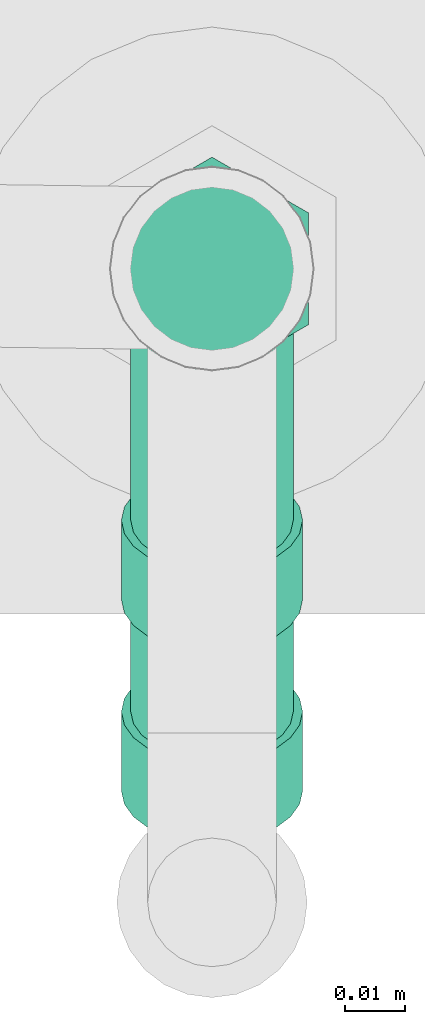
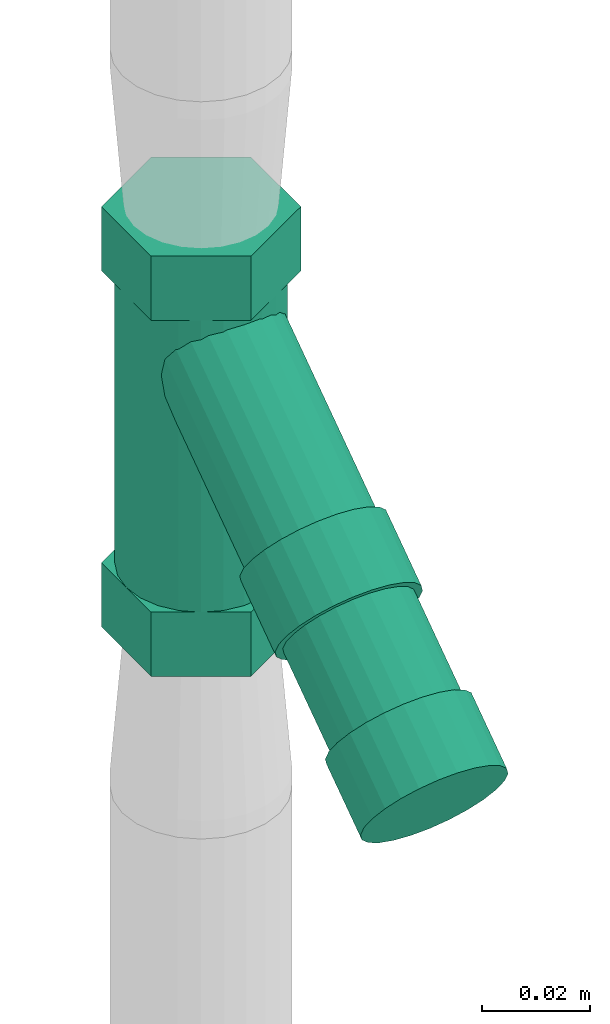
# One storey, part 84 of 374: 1 flow treatment device.
"""IFC2X3 building model written with IfcOpenShell, lengths in metres."""

from ifc_helpers import new_model, si_unit, direction, origin, place, context, subcontext, project, spatial, open_shell, surface_model, source, transform, mapped, element, save


model = new_model("IFC2X3")

# Units and contexts
model_context = context("Model", 3, precision=1e-05, world=origin(), true_north=direction((-0.4480736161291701, 0.8939966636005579)))
body_context = subcontext(model_context, "Body", "Model", "MODEL_VIEW")
ifc_project = project(units=[si_unit("LENGTHUNIT", "METRE"), si_unit("AREAUNIT", "SQUARE_METRE"), si_unit("VOLUMEUNIT", "CUBIC_METRE"), si_unit("PLANEANGLEUNIT", "RADIAN"), si_unit("THERMODYNAMICTEMPERATUREUNIT", "KELVIN"), si_unit("MASSUNIT", "GRAM", prefix="KILO"), si_unit("TIMEUNIT", "SECOND")], contexts=[model_context])

# Site, building, storey
site_placement = place(None, origin())
site = spatial("IfcSite", under=ifc_project, at=site_placement, Name="Site 1", CompositionType="ELEMENT")
building_placement = place(site_placement, origin())
building = spatial("IfcBuilding", under=site, at=building_placement, Name="Undefined", CompositionType="ELEMENT")
storey_placement = place(building_placement, origin())
storey = spatial("IfcBuildingStorey", under=building, at=storey_placement, Name="Rez de chauss\x8ee", CompositionType="ELEMENT", Elevation=0.0)

# Flow treatment device
shared_shape = source(origin(), body_context, "Body", "SurfaceModel", [
    surface_model("IfcFaceBasedSurfaceModel", [(0.0, 0.0035111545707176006, 0.0), (0.0, 0.0, 0.0), (0.02585578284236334, 7.105427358e-15, 0.0), (0.024975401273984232, 0.003511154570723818, -3.552713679e-15), (0.0, -0.003391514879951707, -0.0009087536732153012), (0.028436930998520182, -0.003391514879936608, -0.0009087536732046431), (0.0, -0.006432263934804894, -0.0026643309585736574), (0.03254294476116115, -0.006432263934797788, -0.0026643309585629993), (0.0, -0.00891502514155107, -0.005147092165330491), (0.03789400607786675, -0.008915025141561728, -0.005147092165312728), (0.0, -0.010670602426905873, -0.008187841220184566), (0.04412544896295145, -0.010670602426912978, -0.008187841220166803), (0.0, -0.011579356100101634, -0.01157935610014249), (0.050812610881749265, -0.011579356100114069, -0.011579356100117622), (0.0, -0.011579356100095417, -0.015090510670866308), (0.04900045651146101, -0.011579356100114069, -0.015090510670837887), (0.0, -0.010670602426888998, -0.018482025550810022), (0.04731179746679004, -0.010670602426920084, -0.018482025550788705), (0.0, -0.008915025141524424, -0.021522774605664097), (0.04586171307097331, -0.008915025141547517, -0.021522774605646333), (0.0, -0.006432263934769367, -0.02400553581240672), (0.04474902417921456, -0.006432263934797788, -0.024005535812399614), (0.0, -0.0033915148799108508, -0.025761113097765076), (0.04404955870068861, -0.003391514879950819, -0.025761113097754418), (0.0, 4.2632564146e-14, -0.026669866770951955), (0.04381098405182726, 7.105427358e-15, -0.02666986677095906), (0.0, 0.0035111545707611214, -0.026669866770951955), (0.04404955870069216, 0.0035111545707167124, -0.026669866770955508), (0.0, 0.006902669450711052, -0.02576111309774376), (0.04474902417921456, 0.006902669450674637, -0.025761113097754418), (0.0, 0.00994341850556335, -0.024005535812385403), (0.04586171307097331, 0.009943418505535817, -0.02400553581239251), (0.0, 0.012426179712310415, -0.02152277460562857), (0.04731179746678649, 0.012426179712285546, -0.021522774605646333), (0.0, 0.014181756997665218, -0.018482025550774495), (0.04900045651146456, 0.014181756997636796, -0.018482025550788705), (0.0, 0.015090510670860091, -0.01509051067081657), (0.050812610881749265, 0.015090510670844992, -0.015090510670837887), (0.0, 0.015090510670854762, -0.011579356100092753), (0.044125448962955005, 0.015090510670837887, -0.011579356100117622), (0.0, 0.014181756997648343, -0.00818784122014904), (0.037894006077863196, 0.014181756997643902, -0.008187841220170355), (0.0, 0.012426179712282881, -0.005147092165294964), (0.03254294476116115, 0.012426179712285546, -0.005147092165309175), (0.0, 0.009943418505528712, -0.002664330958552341), (0.028436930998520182, 0.009943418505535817, -0.0026643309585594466), (0.0, 0.006902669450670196, -0.0009087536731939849), (0.025855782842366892, 0.006902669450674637, -0.0009087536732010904), (0.07112295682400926, -0.015791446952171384, -0.02403705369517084), (0.05598895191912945, -0.01717462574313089, -0.034543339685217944), (0.047672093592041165, -0.015624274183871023, -0.022767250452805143), (0.06280609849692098, -0.014241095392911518, -0.01226096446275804), (0.07868995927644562, 0.000763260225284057, -0.020872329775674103), (0.07037310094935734, 0.002313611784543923, -0.00909624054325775), (0.07112295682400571, 0.0159347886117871, -0.028213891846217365), (0.06280609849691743, 0.017485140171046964, -0.01643780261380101), (0.055988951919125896, 0.014551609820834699, -0.03872017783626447), (0.04767209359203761, 0.016101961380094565, -0.026944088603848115), (0.048421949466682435, -0.002003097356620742, -0.04188490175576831), (0.04010509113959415, -0.00045274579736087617, -0.030108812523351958), (0.05523909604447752, 0.016793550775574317, -0.021690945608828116), (0.05184690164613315, 0.01594299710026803, -0.023974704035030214), (0.013990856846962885, 0.0229997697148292, 0.029626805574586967), (0.017383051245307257, 0.023850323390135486, 0.031910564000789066), (0.048685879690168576, 0.014069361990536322, -0.025960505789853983), (0.010829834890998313, 0.02112613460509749, 0.0276410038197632), (0.04597144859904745, 0.011300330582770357, -0.02751302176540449), (0.008115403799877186, 0.018357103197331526, 0.026088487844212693), (0.04388859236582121, 0.007824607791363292, -0.028526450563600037), (0.006032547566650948, 0.01488138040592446, 0.025075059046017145), (0.042579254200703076, 0.0038790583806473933, -0.028931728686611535), (0.004723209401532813, 0.010935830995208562, 0.024669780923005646), (0.04213266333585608, -0.0002674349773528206, -0.028701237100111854), (0.004276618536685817, 0.006789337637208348, 0.024900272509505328), (0.04257925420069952, -0.004332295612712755, -0.02785068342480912), (0.00472320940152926, 0.0027244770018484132, 0.025750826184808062), (0.04388859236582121, -0.008038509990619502, -0.026438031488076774), (0.006032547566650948, -0.0009817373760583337, 0.027163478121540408), (0.04597144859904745, -0.011133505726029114, -0.024559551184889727), (0.008115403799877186, -0.004076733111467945, 0.029041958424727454), (0.048685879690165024, -0.01340636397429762, -0.022343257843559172), (0.01082983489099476, -0.006349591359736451, 0.03125825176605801), (0.05184690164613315, -0.014702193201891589, -0.019940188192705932), (0.013990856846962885, -0.00764542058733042, 0.03366132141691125), (0.05523909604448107, -0.01493268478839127, -0.01751410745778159), (0.01738305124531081, -0.007875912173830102, 0.03608740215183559), (0.058631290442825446, -0.014082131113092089, -0.015230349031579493), (0.020775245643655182, -0.00702535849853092, 0.03837116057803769), (0.06179231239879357, -0.01220849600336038, -0.013244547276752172), (0.023936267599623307, -0.005151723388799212, 0.04035696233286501), (0.0645067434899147, -0.00943946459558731, -0.011692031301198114), (0.026650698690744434, -0.0023826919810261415, 0.04190947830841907), (0.06658959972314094, -0.005963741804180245, -0.010678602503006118), (0.028733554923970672, 0.0010930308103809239, 0.04292290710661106), (0.06789893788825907, -0.0020181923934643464, -0.010273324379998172), (0.030042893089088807, 0.005038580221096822, 0.04332818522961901), (0.06834552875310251, 0.0021283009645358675, -0.010503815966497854), (0.03048948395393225, 0.009185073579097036, 0.04309769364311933), (0.06789893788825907, 0.006193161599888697, -0.011354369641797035), (0.030042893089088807, 0.013249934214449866, 0.042247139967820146), (0.06658959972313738, 0.00989937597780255, -0.01276702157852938), (0.02873355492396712, 0.016956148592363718, 0.0408344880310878), (0.0645067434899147, 0.012994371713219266, -0.014645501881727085), (0.026650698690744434, 0.020051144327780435, 0.038956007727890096), (0.06179231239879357, 0.015267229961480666, -0.016861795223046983), (0.023936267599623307, 0.022324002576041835, 0.0367397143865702), (0.058631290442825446, 0.01656305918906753, -0.019264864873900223), (0.020775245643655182, 0.0236198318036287, 0.03433664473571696), (0.024950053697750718, -0.007184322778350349, 0.04134054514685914), (0.009816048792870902, -0.008567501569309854, 0.03083425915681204), (0.0014991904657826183, -0.007017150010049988, 0.04261034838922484), (0.016633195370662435, -0.005633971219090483, 0.05311663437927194), (0.032517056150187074, 0.009370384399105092, 0.04450526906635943), (0.02420019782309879, 0.010920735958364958, 0.05628135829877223), (0.024950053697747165, 0.024541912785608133, 0.03716370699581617), (0.016633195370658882, 0.026092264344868, 0.04893979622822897), (0.009816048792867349, 0.023158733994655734, 0.026657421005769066), (0.0014991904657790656, 0.0247090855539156, 0.03843351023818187), (0.002249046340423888, 0.0066040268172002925, 0.023492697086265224), (-0.006067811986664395, 0.008154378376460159, 0.035268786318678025), (0.0, 0.016627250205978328, -0.015292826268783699), (3.552713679e-15, 0.015613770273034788, -0.01907518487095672), (-0.015999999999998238, 0.015613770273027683, -0.01907518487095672), (-0.01600000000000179, 0.016627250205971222, -0.015292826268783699), (3.552713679e-15, 0.01365587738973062, -0.022466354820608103), (-0.015999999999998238, 0.013655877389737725, -0.022466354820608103), (0.0, 0.010886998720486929, -0.02523523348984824), (-0.01600000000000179, 0.01088699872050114, -0.02523523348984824), (0.0, 0.007495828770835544, -0.027193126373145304), (-0.015999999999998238, 0.00749582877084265, -0.027193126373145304), (3.552713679e-15, 0.003713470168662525, -0.028206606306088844), (-0.015999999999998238, 0.0037134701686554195, -0.028206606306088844), (0.0, -0.00020231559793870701, -0.028206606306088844), (-0.015999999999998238, -0.00020231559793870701, -0.02820660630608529), (3.552713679e-15, -0.003984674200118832, -0.027193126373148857), (-0.016000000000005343, -0.003984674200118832, -0.027193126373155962), (0.0, -0.0073758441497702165, -0.02523523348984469), (-0.01600000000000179, -0.007375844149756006, -0.02523523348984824), (0.0, -0.010144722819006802, -0.022466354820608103), (-0.01600000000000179, -0.010144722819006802, -0.022466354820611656), (0.0, -0.012102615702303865, -0.019075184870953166), (-0.015999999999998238, -0.01210261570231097, -0.019075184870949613), (-3.552713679e-15, -0.013116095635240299, -0.015292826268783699), (-0.01600000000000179, -0.013116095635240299, -0.015292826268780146), (3.552713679e-15, -0.013116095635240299, -0.011377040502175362), (-0.015999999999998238, -0.013116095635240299, -0.011377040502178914), (-3.552713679e-15, -0.01210261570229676, -0.007594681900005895), (-0.01600000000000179, -0.012102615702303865, -0.007594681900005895), (3.552713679e-15, -0.010144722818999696, -0.004203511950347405), (-0.01600000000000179, -0.010144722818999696, -0.004203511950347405), (3.552713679e-15, -0.007375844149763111, -0.0014346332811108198), (-0.01600000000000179, -0.007375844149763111, -0.0014346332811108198), (-3.552713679e-15, -0.003984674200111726, 0.0005232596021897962), (-0.01600000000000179, -0.003984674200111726, 0.0005232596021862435), (-3.552713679e-15, -0.0002023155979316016, 0.0015367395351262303), (-0.016000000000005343, -0.0002023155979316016, 0.0015367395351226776), (0.0, 0.0037134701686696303, 0.001536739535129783), (-0.01600000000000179, 0.003713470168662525, 0.001536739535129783), (-3.552713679e-15, 0.00749582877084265, 0.0005232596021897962), (-0.01600000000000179, 0.00749582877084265, 0.0005232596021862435), (0.0, 0.01088699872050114, -0.0014346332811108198), (-0.015999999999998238, 0.010886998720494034, -0.0014346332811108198), (0.0, 0.013655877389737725, -0.004203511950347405), (-0.01600000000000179, 0.013655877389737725, -0.004203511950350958), (-3.552713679e-15, 0.015613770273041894, -0.0075946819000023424), (-0.01600000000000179, 0.015613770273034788, -0.007594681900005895), (0.0, 0.016627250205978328, -0.011377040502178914), (-0.01600000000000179, 0.016627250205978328, -0.011377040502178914), (3.552713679e-15, 0.0017555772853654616, -0.01333493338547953), (-0.015999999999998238, 0.0017555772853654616, -0.01333493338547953), (-0.01600000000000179, 0.015090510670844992, -0.01509051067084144), (-0.01600000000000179, 0.014181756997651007, -0.018482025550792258), (-0.03865786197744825, 0.014181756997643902, -0.018482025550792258), (-0.03865786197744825, 0.015090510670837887, -0.01509051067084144), (-0.015999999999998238, 0.012426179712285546, -0.021522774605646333), (-0.038657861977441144, 0.012426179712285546, -0.021522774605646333), (-0.015999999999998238, 0.009943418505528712, -0.02400553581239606), (-0.038657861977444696, 0.009943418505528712, -0.02400553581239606), (-0.01600000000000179, 0.006902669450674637, -0.02576111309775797), (-0.03865786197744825, 0.006902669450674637, -0.025761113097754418), (-0.015999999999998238, 0.003511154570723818, -0.026669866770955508), (-0.038657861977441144, 0.0035111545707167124, -0.02666986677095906), (-0.01600000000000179, 0.0, -0.02666986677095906), (-0.038657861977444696, 7.105427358e-15, -0.026669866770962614), (-0.016000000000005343, -0.0033915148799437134, -0.02576111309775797), (-0.03865786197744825, -0.003391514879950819, -0.02576111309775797), (-0.01600000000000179, -0.006432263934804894, -0.02400553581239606), (-0.03865786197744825, -0.006432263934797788, -0.024005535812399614), (-0.016000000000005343, -0.008915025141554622, -0.021522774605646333), (-0.03865786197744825, -0.008915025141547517, -0.021522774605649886), (-0.015999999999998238, -0.010670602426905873, -0.018482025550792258), (-0.03865786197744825, -0.010670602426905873, -0.018482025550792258), (-0.015999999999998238, -0.011579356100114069, -0.015090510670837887), (-0.03865786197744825, -0.011579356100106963, -0.01509051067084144), (-0.015999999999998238, -0.011579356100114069, -0.011579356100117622), (-0.038657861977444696, -0.011579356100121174, -0.011579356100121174), (-0.01600000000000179, -0.010670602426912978, -0.008187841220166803), (-0.038657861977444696, -0.010670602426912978, -0.008187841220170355), (-0.01600000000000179, -0.008915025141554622, -0.0051470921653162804), (-0.0386578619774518, -0.008915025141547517, -0.0051470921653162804), (-0.01600000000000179, -0.006432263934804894, -0.0026643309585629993), (-0.038657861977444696, -0.006432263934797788, -0.0026643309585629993), (-0.015999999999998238, -0.003391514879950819, -0.0009087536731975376), (-0.038657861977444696, -0.0033915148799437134, -0.0009087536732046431), (-0.015999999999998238, 0.0, 0.0), (-0.03865786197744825, 7.105427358e-15, -3.552713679e-15), (-0.015999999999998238, 0.003511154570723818, 0.0), (-0.03865786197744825, 0.0035111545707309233, -7.105427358e-15), (-0.01600000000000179, 0.006902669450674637, -0.0009087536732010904), (-0.038657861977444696, 0.006902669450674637, -0.0009087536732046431), (-0.01600000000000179, 0.009943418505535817, -0.0026643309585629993), (-0.038657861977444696, 0.009943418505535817, -0.0026643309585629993), (-0.01600000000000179, 0.012426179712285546, -0.0051470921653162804), (-0.038657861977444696, 0.012426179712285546, -0.005147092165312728), (-0.015999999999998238, 0.014181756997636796, -0.008187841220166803), (-0.038657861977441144, 0.014181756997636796, -0.008187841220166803), (-0.01600000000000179, 0.015090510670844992, -0.011579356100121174), (-0.038657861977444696, 0.015090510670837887, -0.011579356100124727), (-0.03865786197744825, 0.016627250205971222, -0.015292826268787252), (-0.03865786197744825, 0.015613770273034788, -0.01907518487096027), (-0.054657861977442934, 0.015613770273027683, -0.01907518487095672), (-0.05465786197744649, 0.016627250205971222, -0.015292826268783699), (-0.03865786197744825, 0.01365587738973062, -0.022466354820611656), (-0.054657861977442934, 0.01365587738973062, -0.022466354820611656), (-0.038657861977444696, 0.010886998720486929, -0.02523523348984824), (-0.05465786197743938, 0.010886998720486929, -0.02523523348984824), (-0.03865786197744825, 0.007495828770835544, -0.02719312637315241), (-0.054657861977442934, 0.007495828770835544, -0.027193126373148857), (-0.03865786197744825, 0.003713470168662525, -0.02820660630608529), (-0.05465786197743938, 0.003713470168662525, -0.02820660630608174), (-0.03865786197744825, -0.00020231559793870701, -0.02820660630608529), (-0.054657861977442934, -0.00020231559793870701, -0.02820660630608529), (-0.0386578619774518, -0.003984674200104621, -0.02719312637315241), (-0.054657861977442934, -0.003984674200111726, -0.027193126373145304), (-0.038657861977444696, -0.0073758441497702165, -0.025235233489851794), (-0.05465786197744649, -0.0073758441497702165, -0.02523523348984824), (-0.038657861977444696, -0.010144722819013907, -0.022466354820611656), (-0.054657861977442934, -0.010144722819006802, -0.022466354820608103), (-0.03865786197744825, -0.01210261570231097, -0.019075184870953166), (-0.054657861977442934, -0.01210261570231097, -0.019075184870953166), (-0.03865786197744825, -0.013116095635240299, -0.015292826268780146), (-0.054657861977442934, -0.013116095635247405, -0.015292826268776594), (-0.03865786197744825, -0.013116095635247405, -0.011377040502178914), (-0.054657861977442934, -0.01311609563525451, -0.011377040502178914), (-0.03865786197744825, -0.012102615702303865, -0.007594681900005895), (-0.054657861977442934, -0.012102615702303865, -0.0075946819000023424), (-0.03865786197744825, -0.010144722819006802, -0.004203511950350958), (-0.05465786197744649, -0.010144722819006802, -0.004203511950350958), (-0.03865786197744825, -0.007375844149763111, -0.0014346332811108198), (-0.054657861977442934, -0.0073758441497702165, -0.0014346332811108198), (-0.038657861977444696, -0.003984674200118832, 0.0005232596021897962), (-0.05465786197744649, -0.003984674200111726, 0.0005232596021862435), (-0.03865786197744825, -0.0002023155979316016, 0.0015367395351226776), (-0.05465786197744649, -0.00020231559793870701, 0.0015367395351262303), (-0.038657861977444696, 0.003713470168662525, 0.0015367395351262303), (-0.054657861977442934, 0.003713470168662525, 0.001536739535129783), (-0.038657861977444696, 0.00749582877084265, 0.0005232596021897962), (-0.054657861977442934, 0.007495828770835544, 0.0005232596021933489), (-0.038657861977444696, 0.010886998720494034, -0.0014346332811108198), (-0.054657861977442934, 0.010886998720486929, -0.0014346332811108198), (-0.038657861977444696, 0.01365587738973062, -0.004203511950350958), (-0.054657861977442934, 0.01365587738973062, -0.004203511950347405), (-0.03865786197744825, 0.015613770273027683, -0.007594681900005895), (-0.05465786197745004, 0.015613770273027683, -0.007594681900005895), (-0.038657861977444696, 0.016627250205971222, -0.011377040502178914), (-0.054657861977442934, 0.016627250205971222, -0.011377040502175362), (-0.03865786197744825, 0.0017555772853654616, -0.013334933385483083), (-0.05465786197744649, 0.0017555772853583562, -0.013334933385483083)], [open_shell([[[0, 1, 2, 3]], [[1, 4, 5, 2]], [[4, 6, 7, 5]], [[6, 8, 9, 7]], [[8, 10, 11, 9]], [[10, 12, 13, 11]], [[12, 14, 15, 13]], [[14, 16, 17, 15]], [[16, 18, 19, 17]], [[18, 20, 21, 19]], [[20, 22, 23, 21]], [[22, 24, 25, 23]], [[24, 26, 27, 25]], [[26, 28, 29, 27]], [[28, 30, 31, 29]], [[30, 32, 33, 31]], [[32, 34, 35, 33]], [[34, 36, 37, 35]], [[36, 38, 39, 37]], [[38, 40, 41, 39]], [[40, 42, 43, 41]], [[42, 44, 45, 43]], [[44, 46, 47, 45]], [[46, 0, 3, 47]], [[48, 49, 50, 51]], [[52, 48, 51, 53]], [[54, 52, 53, 55]], [[56, 54, 55, 57]], [[58, 56, 57, 59]], [[49, 58, 59, 50]], [[49, 48, 52]], [[49, 52, 54]], [[49, 54, 56]], [[49, 56, 58]], [[50, 53, 51]], [[50, 55, 53]], [[50, 57, 55]], [[50, 59, 57]], [[60, 61, 62, 63]], [[61, 64, 65, 62]], [[64, 66, 67, 65]], [[66, 68, 69, 67]], [[68, 70, 71, 69]], [[70, 72, 73, 71]], [[72, 74, 75, 73]], [[74, 76, 77, 75]], [[76, 78, 79, 77]], [[78, 80, 81, 79]], [[80, 82, 83, 81]], [[82, 84, 85, 83]], [[84, 86, 87, 85]], [[86, 88, 89, 87]], [[88, 90, 91, 89]], [[90, 92, 93, 91]], [[92, 94, 95, 93]], [[94, 96, 97, 95]], [[96, 98, 99, 97]], [[98, 100, 101, 99]], [[100, 102, 103, 101]], [[102, 104, 105, 103]], [[104, 106, 107, 105]], [[106, 60, 63, 107]], [[108, 109, 110, 111]], [[112, 108, 111, 113]], [[114, 112, 113, 115]], [[116, 114, 115, 117]], [[118, 116, 117, 119]], [[109, 118, 119, 110]], [[109, 108, 112]], [[109, 112, 114]], [[109, 114, 116]], [[109, 116, 118]], [[110, 113, 111]], [[110, 115, 113]], [[110, 117, 115]], [[110, 119, 117]], [[120, 121, 122, 123]], [[121, 124, 125, 122]], [[124, 126, 127, 125]], [[126, 128, 129, 127]], [[128, 130, 131, 129]], [[130, 132, 133, 131]], [[132, 134, 135, 133]], [[134, 136, 137, 135]], [[136, 138, 139, 137]], [[138, 140, 141, 139]], [[140, 142, 143, 141]], [[142, 144, 145, 143]], [[144, 146, 147, 145]], [[146, 148, 149, 147]], [[148, 150, 151, 149]], [[150, 152, 153, 151]], [[152, 154, 155, 153]], [[154, 156, 157, 155]], [[156, 158, 159, 157]], [[158, 160, 161, 159]], [[160, 162, 163, 161]], [[162, 164, 165, 163]], [[164, 166, 167, 165]], [[166, 120, 123, 167]], [[168, 121, 120]], [[168, 124, 121]], [[168, 126, 124]], [[168, 128, 126]], [[168, 130, 128]], [[168, 132, 130]], [[168, 134, 132]], [[168, 136, 134]], [[168, 138, 136]], [[168, 140, 138]], [[168, 142, 140]], [[168, 144, 142]], [[168, 146, 144]], [[168, 148, 146]], [[168, 150, 148]], [[168, 152, 150]], [[168, 154, 152]], [[168, 156, 154]], [[168, 158, 156]], [[168, 160, 158]], [[168, 162, 160]], [[168, 164, 162]], [[168, 166, 164]], [[168, 120, 166]], [[169, 167, 123]], [[169, 165, 167]], [[169, 163, 165]], [[169, 161, 163]], [[169, 159, 161]], [[169, 157, 159]], [[169, 155, 157]], [[169, 153, 155]], [[169, 151, 153]], [[169, 149, 151]], [[169, 147, 149]], [[169, 145, 147]], [[169, 143, 145]], [[169, 141, 143]], [[169, 139, 141]], [[169, 137, 139]], [[169, 135, 137]], [[169, 133, 135]], [[169, 131, 133]], [[169, 129, 131]], [[169, 127, 129]], [[169, 125, 127]], [[169, 122, 125]], [[169, 123, 122]], [[170, 171, 172, 173]], [[171, 174, 175, 172]], [[174, 176, 177, 175]], [[176, 178, 179, 177]], [[178, 180, 181, 179]], [[180, 182, 183, 181]], [[182, 184, 185, 183]], [[184, 186, 187, 185]], [[186, 188, 189, 187]], [[188, 190, 191, 189]], [[190, 192, 193, 191]], [[192, 194, 195, 193]], [[194, 196, 197, 195]], [[196, 198, 199, 197]], [[198, 200, 201, 199]], [[200, 202, 203, 201]], [[202, 204, 205, 203]], [[204, 206, 207, 205]], [[206, 208, 209, 207]], [[208, 210, 211, 209]], [[210, 212, 213, 211]], [[212, 214, 215, 213]], [[214, 216, 217, 215]], [[216, 170, 173, 217]], [[218, 219, 220, 221]], [[219, 222, 223, 220]], [[222, 224, 225, 223]], [[224, 226, 227, 225]], [[226, 228, 229, 227]], [[228, 230, 231, 229]], [[230, 232, 233, 231]], [[232, 234, 235, 233]], [[234, 236, 237, 235]], [[236, 238, 239, 237]], [[238, 240, 241, 239]], [[240, 242, 243, 241]], [[242, 244, 245, 243]], [[244, 246, 247, 245]], [[246, 248, 249, 247]], [[248, 250, 251, 249]], [[250, 252, 253, 251]], [[252, 254, 255, 253]], [[254, 256, 257, 255]], [[256, 258, 259, 257]], [[258, 260, 261, 259]], [[260, 262, 263, 261]], [[262, 264, 265, 263]], [[264, 218, 221, 265]], [[266, 219, 218]], [[266, 222, 219]], [[266, 224, 222]], [[266, 226, 224]], [[266, 228, 226]], [[266, 230, 228]], [[266, 232, 230]], [[266, 234, 232]], [[266, 236, 234]], [[266, 238, 236]], [[266, 240, 238]], [[266, 242, 240]], [[266, 244, 242]], [[266, 246, 244]], [[266, 248, 246]], [[266, 250, 248]], [[266, 252, 250]], [[266, 254, 252]], [[266, 256, 254]], [[266, 258, 256]], [[266, 260, 258]], [[266, 262, 260]], [[266, 264, 262]], [[266, 218, 264]], [[267, 265, 221]], [[267, 263, 265]], [[267, 261, 263]], [[267, 259, 261]], [[267, 257, 259]], [[267, 255, 257]], [[267, 253, 255]], [[267, 251, 253]], [[267, 249, 251]], [[267, 247, 249]], [[267, 245, 247]], [[267, 243, 245]], [[267, 241, 243]], [[267, 239, 241]], [[267, 237, 239]], [[267, 235, 237]], [[267, 233, 235]], [[267, 231, 233]], [[267, 229, 231]], [[267, 227, 229]], [[267, 225, 227]], [[267, 223, 225]], [[267, 220, 223]], [[267, 221, 220]]])]),
])
flow_treatment_device_placement = place(storey_placement, origin())
element("IfcFlowTreatmentDevice", 1, at=flow_treatment_device_placement, inside=storey, Name="Filtre en Y", ObjectType="Filtre en Y", context=body_context, shape_type="MappedRepresentation", body=[
    mapped(shared_shape, transform((52.25408090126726, 10.883865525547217, 1.7349846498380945), x_axis=(0.0, 0.8191520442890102, 0.5735764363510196), y_axis=(0.9914448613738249, 0.07486674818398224, -0.1069207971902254), z_axis=(-0.13052619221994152, 0.5686694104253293, -0.8121440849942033))),
])

save(model, "model.ifc")
